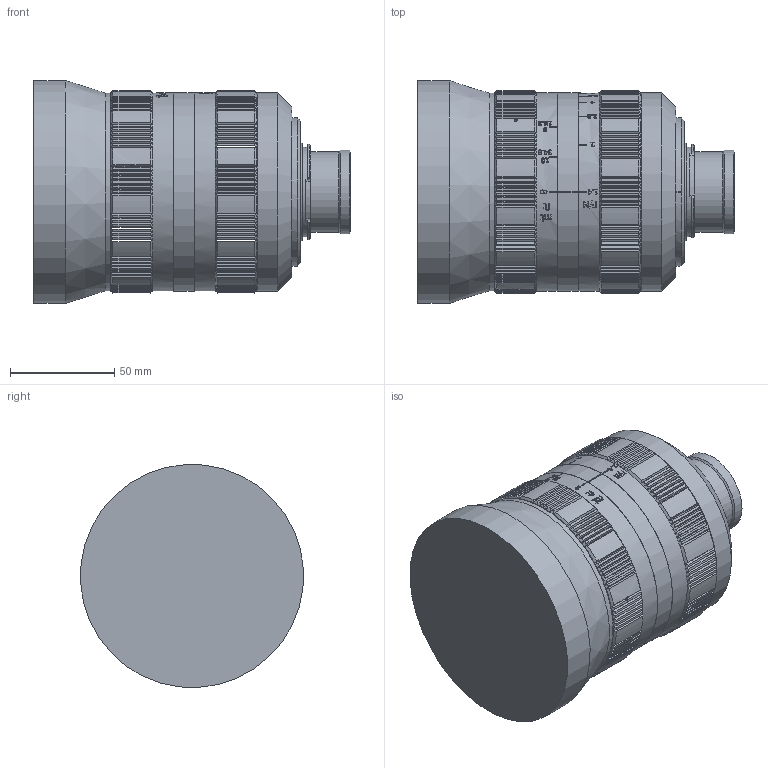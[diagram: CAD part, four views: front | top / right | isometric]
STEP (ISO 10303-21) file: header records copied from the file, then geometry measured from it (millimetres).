
FILE_DESCRIPTION((''),'2;1');
FILE_NAME('\\10.0.0.209\Doc Produ\Meccaniche\STP\A_2008\C0812\C0812_000\C0812_002.stp','2014-04-28T11:21:28',('mcilia'),(''),'Autodesk Inventor 2010','Autodesk Inventor 2010','');
FILE_SCHEMA(('AUTOMOTIVE_DESIGN { 1 0 10303 214 1 1 1 1 }'));
Length unit declared in the file: millimetre
Products named in the file (2): C0812_002_000 (Livello di dettaglio sostituto1); C0812_002
Assembly tree (1 placements, depth 2):
  C0812_002_000 (Livello di dettaglio sostituto1)
    C0812_002
Bounding box: 151.8 x 106.8 x 106.8 mm (x, y, z)
Surface area: 113991.7 mm2 (no closed solid volume)
Topology: 0 solids, 16 shells, 962 faces, 2700 edges, 1727 vertices
Faces by surface type: cone 371, plane 362, cylinder 213, bspline 16
Full cylindrical faces by diameter (mm): 38 x1, 38.5 x1, 40 x1, 43 x1, 47 x1, 95 x4, 107 x1
Entity records: 31802 total; most frequent: CARTESIAN_POINT 8691, DIRECTION 4538, ORIENTED_EDGE 4507, EDGE_CURVE 2666, AXIS2_PLACEMENT_3D 1899, VERTEX_POINT 1717, EDGE_LOOP 1033, FACE_OUTER_BOUND 962
